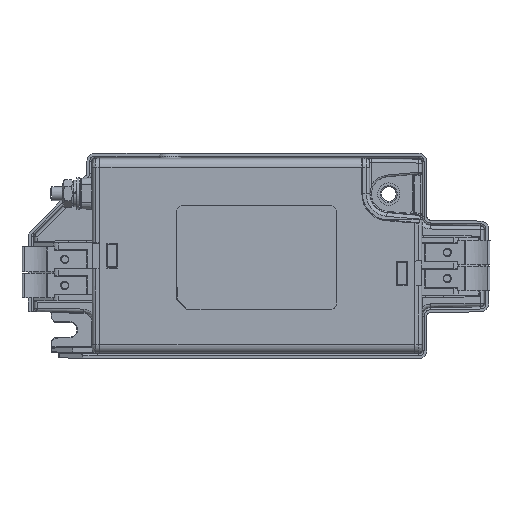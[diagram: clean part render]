
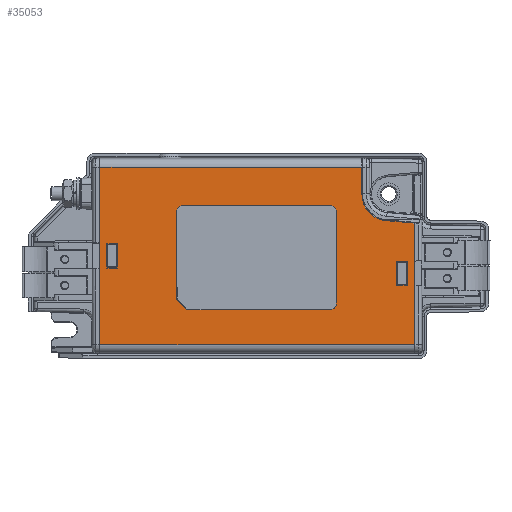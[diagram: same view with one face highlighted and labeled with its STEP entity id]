
A CAD part, top view. The second image highlights one B-rep face of the part: STEP entity #35053.
In plain terms, the highlighted planar face has unit normal (0, 0, 1).
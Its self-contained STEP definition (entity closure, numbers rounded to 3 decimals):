
#643=FACE_BOUND('',#3770,.T.);
#644=FACE_BOUND('',#3771,.T.);
#645=FACE_BOUND('',#3772,.T.);
#794=PLANE('',#37237);
#1750=FACE_OUTER_BOUND('',#3769,.T.);
#3769=EDGE_LOOP('',(#22770,#22771,#22772,#22773,#22774,#22775,#22776,#22777));
#3770=EDGE_LOOP('',(#22778,#22779,#22780,#22781));
#3771=EDGE_LOOP('',(#22782,#22783,#22784,#22785));
#3772=EDGE_LOOP('',(#22786,#22787,#22788,#22789,#22790,#22791,#22792,#22793,
#22794,#22795));
#6543=CIRCLE('',#37224,2.);
#6545=CIRCLE('',#37228,2.);
#6547=CIRCLE('',#37232,2.);
#6548=CIRCLE('',#37238,7.5);
#7801=LINE('',#51956,#10861);
#7862=LINE('',#52165,#10922);
#7866=LINE('',#52177,#10926);
#7870=LINE('',#52188,#10930);
#7874=LINE('',#52196,#10934);
#7877=LINE('',#52200,#10937);
#7878=LINE('',#52205,#10938);
#7879=LINE('',#52207,#10939);
#7880=LINE('',#52210,#10940);
#7881=LINE('',#52212,#10941);
#7882=LINE('',#52214,#10942);
#7883=LINE('',#52215,#10943);
#7884=LINE('',#52218,#10944);
#7885=LINE('',#52220,#10945);
#7886=LINE('',#52222,#10946);
#7887=LINE('',#52223,#10947);
#7888=LINE('',#52226,#10948);
#7889=LINE('',#52228,#10949);
#7890=LINE('',#52230,#10950);
#7891=LINE('',#52231,#10951);
#7892=LINE('',#52232,#10952);
#7893=LINE('',#52233,#10953);
#10861=VECTOR('',#41239,10.);
#10922=VECTOR('',#41376,10.);
#10926=VECTOR('',#41388,10.);
#10930=VECTOR('',#41400,10.);
#10934=VECTOR('',#41406,10.);
#10937=VECTOR('',#41411,10.);
#10938=VECTOR('',#41416,10.);
#10939=VECTOR('',#41417,10.);
#10940=VECTOR('',#41420,10.);
#10941=VECTOR('',#41421,10.);
#10942=VECTOR('',#41422,10.);
#10943=VECTOR('',#41423,10.);
#10944=VECTOR('',#41424,10.);
#10945=VECTOR('',#41425,10.);
#10946=VECTOR('',#41426,10.);
#10947=VECTOR('',#41427,10.);
#10948=VECTOR('',#41428,10.);
#10949=VECTOR('',#41429,10.);
#10950=VECTOR('',#41430,10.);
#10951=VECTOR('',#41431,10.);
#10952=VECTOR('',#41432,10.);
#10953=VECTOR('',#41433,10.);
#13932=VERTEX_POINT('',#51953);
#13933=VERTEX_POINT('',#51955);
#14006=VERTEX_POINT('',#52142);
#14010=VERTEX_POINT('',#52149);
#14011=VERTEX_POINT('',#52151);
#14014=VERTEX_POINT('',#52158);
#14015=VERTEX_POINT('',#52160);
#14016=VERTEX_POINT('',#52164);
#14019=VERTEX_POINT('',#52172);
#14020=VERTEX_POINT('',#52176);
#14023=VERTEX_POINT('',#52184);
#14026=VERTEX_POINT('',#52195);
#14027=VERTEX_POINT('',#52203);
#14028=VERTEX_POINT('',#52204);
#14029=VERTEX_POINT('',#52206);
#14030=VERTEX_POINT('',#52209);
#14031=VERTEX_POINT('',#52211);
#14032=VERTEX_POINT('',#52213);
#14033=VERTEX_POINT('',#52216);
#14034=VERTEX_POINT('',#52217);
#14035=VERTEX_POINT('',#52219);
#14036=VERTEX_POINT('',#52221);
#14037=VERTEX_POINT('',#52224);
#14038=VERTEX_POINT('',#52225);
#14039=VERTEX_POINT('',#52227);
#14040=VERTEX_POINT('',#52229);
#17205=EDGE_CURVE('',#13933,#13932,#7801,.T.);
#17293=EDGE_CURVE('',#14015,#14014,#6543,.T.);
#17295=EDGE_CURVE('',#14016,#14015,#7862,.T.);
#17299=EDGE_CURVE('',#14019,#14016,#6545,.T.);
#17301=EDGE_CURVE('',#14020,#14019,#7866,.T.);
#17305=EDGE_CURVE('',#14023,#14020,#6547,.T.);
#17307=EDGE_CURVE('',#14006,#14023,#7870,.T.);
#17311=EDGE_CURVE('',#14026,#14010,#7874,.T.);
#17314=EDGE_CURVE('',#14014,#14026,#7877,.T.);
#17315=EDGE_CURVE('',#14027,#14028,#7878,.T.);
#17316=EDGE_CURVE('',#14027,#14029,#7879,.T.);
#17317=EDGE_CURVE('',#14029,#13933,#6548,.T.);
#17318=EDGE_CURVE('',#13932,#14030,#7880,.T.);
#17319=EDGE_CURVE('',#14031,#14030,#7881,.T.);
#17320=EDGE_CURVE('',#14031,#14032,#7882,.T.);
#17321=EDGE_CURVE('',#14028,#14032,#7883,.T.);
#17322=EDGE_CURVE('',#14033,#14034,#7884,.T.);
#17323=EDGE_CURVE('',#14034,#14035,#7885,.T.);
#17324=EDGE_CURVE('',#14035,#14036,#7886,.T.);
#17325=EDGE_CURVE('',#14036,#14033,#7887,.T.);
#17326=EDGE_CURVE('',#14037,#14038,#7888,.T.);
#17327=EDGE_CURVE('',#14038,#14039,#7889,.T.);
#17328=EDGE_CURVE('',#14039,#14040,#7890,.T.);
#17329=EDGE_CURVE('',#14040,#14037,#7891,.T.);
#17330=EDGE_CURVE('',#14010,#14011,#7892,.T.);
#17331=EDGE_CURVE('',#14011,#14006,#7893,.T.);
#22770=ORIENTED_EDGE('',*,*,#17315,.F.);
#22771=ORIENTED_EDGE('',*,*,#17316,.T.);
#22772=ORIENTED_EDGE('',*,*,#17317,.T.);
#22773=ORIENTED_EDGE('',*,*,#17205,.T.);
#22774=ORIENTED_EDGE('',*,*,#17318,.T.);
#22775=ORIENTED_EDGE('',*,*,#17319,.F.);
#22776=ORIENTED_EDGE('',*,*,#17320,.T.);
#22777=ORIENTED_EDGE('',*,*,#17321,.F.);
#22778=ORIENTED_EDGE('',*,*,#17322,.T.);
#22779=ORIENTED_EDGE('',*,*,#17323,.T.);
#22780=ORIENTED_EDGE('',*,*,#17324,.T.);
#22781=ORIENTED_EDGE('',*,*,#17325,.T.);
#22782=ORIENTED_EDGE('',*,*,#17326,.T.);
#22783=ORIENTED_EDGE('',*,*,#17327,.T.);
#22784=ORIENTED_EDGE('',*,*,#17328,.T.);
#22785=ORIENTED_EDGE('',*,*,#17329,.T.);
#22786=ORIENTED_EDGE('',*,*,#17307,.T.);
#22787=ORIENTED_EDGE('',*,*,#17305,.T.);
#22788=ORIENTED_EDGE('',*,*,#17301,.T.);
#22789=ORIENTED_EDGE('',*,*,#17299,.T.);
#22790=ORIENTED_EDGE('',*,*,#17295,.T.);
#22791=ORIENTED_EDGE('',*,*,#17293,.T.);
#22792=ORIENTED_EDGE('',*,*,#17314,.T.);
#22793=ORIENTED_EDGE('',*,*,#17311,.T.);
#22794=ORIENTED_EDGE('',*,*,#17330,.T.);
#22795=ORIENTED_EDGE('',*,*,#17331,.T.);
#35053=ADVANCED_FACE('',(#1750,#643,#644,#645),#794,.T.);
#37224=AXIS2_PLACEMENT_3D('',#52161,#41371,#41372);
#37228=AXIS2_PLACEMENT_3D('',#52173,#41383,#41384);
#37232=AXIS2_PLACEMENT_3D('',#52185,#41395,#41396);
#37237=AXIS2_PLACEMENT_3D('',#52202,#41414,#41415);
#37238=AXIS2_PLACEMENT_3D('',#52208,#41418,#41419);
#41239=DIRECTION('',(0.,1.,0.));
#41371=DIRECTION('center_axis',(0.,0.,
-1.));
#41372=DIRECTION('ref_axis',(0.707,-0.707,0.));
#41376=DIRECTION('',(0.,-1.,0.));
#41383=DIRECTION('center_axis',(0.,0.,
-1.));
#41384=DIRECTION('ref_axis',(0.707,0.707,0.));
#41388=DIRECTION('',(1.,0.,0.));
#41395=DIRECTION('center_axis',(0.,0.,
-1.));
#41396=DIRECTION('ref_axis',(-0.707,0.707,0.));
#41400=DIRECTION('',(0.,1.,0.));
#41406=DIRECTION('',(-0.707,0.707,0.));
#41411=DIRECTION('',(-1.,0.,0.));
#41414=DIRECTION('center_axis',(0.,0.,
1.));
#41415=DIRECTION('ref_axis',(0.,-1.,0.));
#41416=DIRECTION('',(0.676,-0.737,0.));
#41417=DIRECTION('',(-0.996,0.087,0.));
#41418=DIRECTION('center_axis',(0.,0.,
-1.));
#41419=DIRECTION('ref_axis',(-1.,0.,0.));
#41420=DIRECTION('',(-1.,0.,0.));
#41421=DIRECTION('',(0.,1.,0.));
#41422=DIRECTION('',(1.,0.,0.));
#41423=DIRECTION('',(0.,-1.,0.));
#41424=DIRECTION('',(-1.,0.,0.));
#41425=DIRECTION('',(0.,1.,0.));
#41426=DIRECTION('',(1.,0.,0.));
#41427=DIRECTION('',(0.,-1.,0.));
#41428=DIRECTION('',(-1.,0.,0.));
#41429=DIRECTION('',(0.,1.,0.));
#41430=DIRECTION('',(1.,0.,0.));
#41431=DIRECTION('',(0.,-1.,0.));
#41432=DIRECTION('',(-0.707,0.707,0.));
#41433=DIRECTION('',(0.,1.,0.));
#51953=CARTESIAN_POINT('',(29.2,25.5,34.9));
#51955=CARTESIAN_POINT('',(29.2,17.6,34.9));
#51956=CARTESIAN_POINT('',(29.2,8.8,34.9));
#52142=CARTESIAN_POINT('',(-24.1,-9.025,34.9));
#52149=CARTESIAN_POINT('',(-21.625,-15.,34.9));
#52151=CARTESIAN_POINT('',(-24.1,-12.525,34.9));
#52158=CARTESIAN_POINT('',(19.9,-15.525,34.9));
#52160=CARTESIAN_POINT('',(21.9,-13.525,34.9));
#52161=CARTESIAN_POINT('Origin',(19.9,-13.525,34.9));
#52164=CARTESIAN_POINT('',(21.9,12.475,34.9));
#52165=CARTESIAN_POINT('',(21.9,7.237,34.9));
#52172=CARTESIAN_POINT('',(19.9,14.475,34.9));
#52173=CARTESIAN_POINT('Origin',(19.9,12.475,34.9));
#52176=CARTESIAN_POINT('',(-22.1,14.475,34.9));
#52177=CARTESIAN_POINT('',(-12.525,14.475,34.9));
#52184=CARTESIAN_POINT('',(-24.1,12.475,34.9));
#52185=CARTESIAN_POINT('Origin',(-22.1,12.475,34.9));
#52188=CARTESIAN_POINT('',(-24.1,-7.763,34.9));
#52195=CARTESIAN_POINT('',(-21.1,-15.525,34.9));
#52196=CARTESIAN_POINT('',(-20.694,-15.931,34.9));
#52200=CARTESIAN_POINT('',(10.475,-15.525,34.9));
#52202=CARTESIAN_POINT('Origin',(-0.95,0.,
34.9));
#52203=CARTESIAN_POINT('',(43.702,9.459,34.9));
#52204=CARTESIAN_POINT('',(44.2,8.915,34.9));
#52205=CARTESIAN_POINT('',(35.992,17.873,34.9));
#52206=CARTESIAN_POINT('',(36.046,10.129,34.9));
#52207=CARTESIAN_POINT('',(22.205,11.339,34.9));
#52208=CARTESIAN_POINT('Origin',(36.7,17.6,34.9));
#52209=CARTESIAN_POINT('',(-46.1,25.5,34.9));
#52210=CARTESIAN_POINT('',(21.625,25.5,34.9));
#52211=CARTESIAN_POINT('',(-46.1,-25.5,34.9));
#52212=CARTESIAN_POINT('',(-46.1,28.,34.9));
#52213=CARTESIAN_POINT('',(44.2,-25.5,34.9));
#52214=CARTESIAN_POINT('',(-23.525,-25.5,34.9));
#52215=CARTESIAN_POINT('',(44.2,-28.,34.9));
#52216=CARTESIAN_POINT('',(-41.1,-3.5,34.9));
#52217=CARTESIAN_POINT('',(-44.1,-3.5,34.9));
#52218=CARTESIAN_POINT('',(-21.025,-3.5,34.9));
#52219=CARTESIAN_POINT('',(-44.1,3.5,34.9));
#52220=CARTESIAN_POINT('',(-44.1,0.,34.9));
#52221=CARTESIAN_POINT('',(-41.1,3.5,34.9));
#52222=CARTESIAN_POINT('',(-22.525,3.5,34.9));
#52223=CARTESIAN_POINT('',(-41.1,1.75,34.9));
#52224=CARTESIAN_POINT('',(42.2,-8.5,34.9));
#52225=CARTESIAN_POINT('',(39.2,-8.5,34.9));
#52226=CARTESIAN_POINT('',(20.625,-8.5,34.9));
#52227=CARTESIAN_POINT('',(39.2,-1.5,34.9));
#52228=CARTESIAN_POINT('',(39.2,-4.25,34.9));
#52229=CARTESIAN_POINT('',(42.2,-1.5,34.9));
#52230=CARTESIAN_POINT('',(19.125,-1.5,34.9));
#52231=CARTESIAN_POINT('',(42.2,-0.75,34.9));
#52232=CARTESIAN_POINT('',(-20.206,-16.419,34.9));
#52233=CARTESIAN_POINT('',(-24.1,-6.263,34.9));
